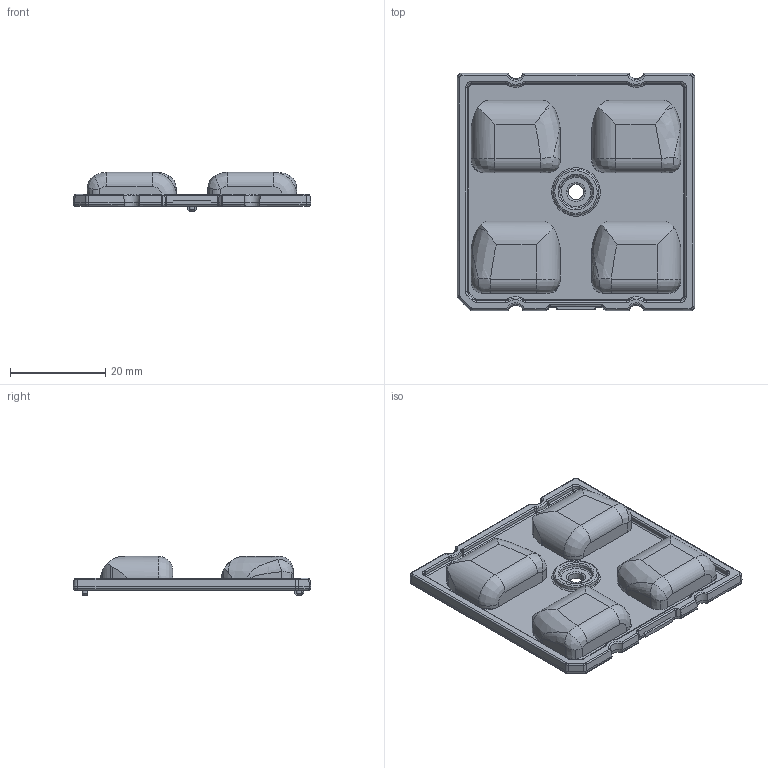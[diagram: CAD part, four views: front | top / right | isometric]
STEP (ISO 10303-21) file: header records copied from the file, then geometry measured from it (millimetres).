
FILE_DESCRIPTION(('CATIA V5 STEP Exchange'),'2;1');
FILE_NAME('Z:\Engineering\Design Library\Strada\5-Mech_models\C13299_STRADA-2X2-ME_001 20121126 ol_MechanicalModel.stp','2012-11-26T11:44:56+00:00',('none'),('none'),'CATIA Version 5 Release 20 GA (IN-10)','CATIA V5 STEP AP203','none');
FILE_SCHEMA(('CONFIG_CONTROL_DESIGN'));
Length unit declared in the file: millimetre
Products named in the file (1): Part1
Bounding box: 50 x 50 x 8.25 mm (x, y, z)
Volume: 8586 mm3; surface area: 6756.4 mm2
Topology: 1 solids, 1 shells, 479 faces, 1207 edges, 754 vertices
Faces by surface type: plane 146, cylinder 144, bspline 60, torus 49, cone 44, extrusion 26, sphere 6, revolution 4
Entity records: 21105 total; most frequent: CARTESIAN_POINT 10787, ORIENTED_EDGE 2410, DIRECTION 1541, EDGE_CURVE 1205, VERTEX_POINT 754, AXIS2_PLACEMENT_3D 662, VECTOR 528, EDGE_LOOP 507
